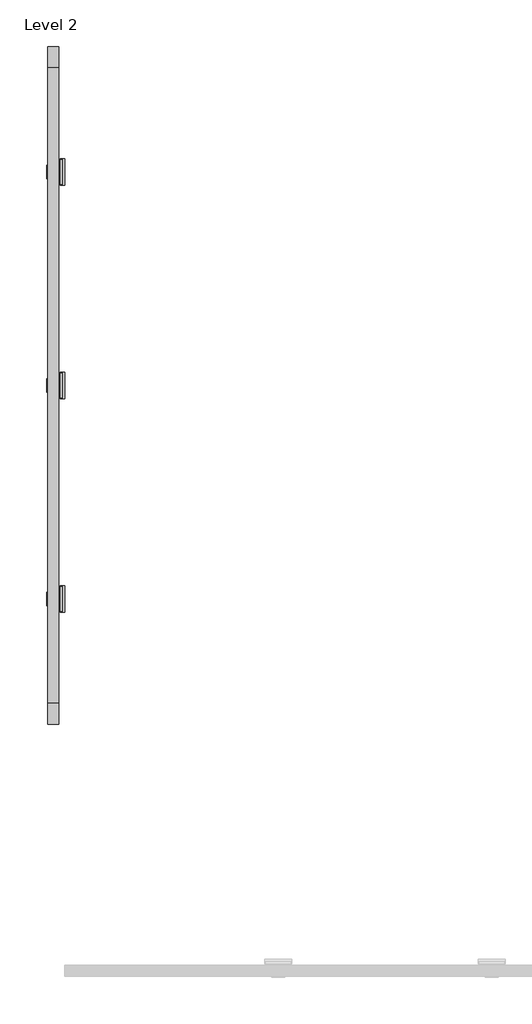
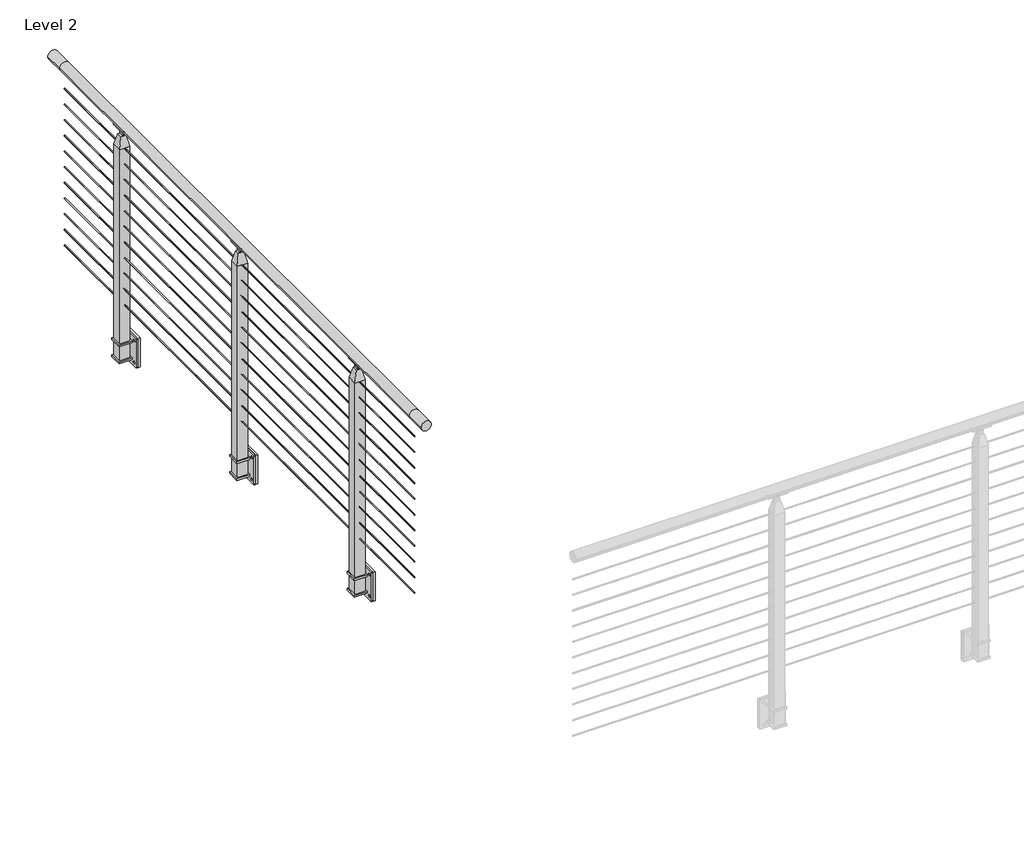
# One storey, part 1 of 17: 1 railing.
"""IFC4 building model written with IfcOpenShell, lengths in millimetres."""

from ifc_helpers import new_model, si_unit, point, frame, frame_2d, origin, place, context, project, spatial, polyline, circle_curve, trimmed, segment, composite_curve, outline, extrude, faceted_brep, element, save
from ifc_brep_helpers import plane_surface, cylinder_surface, revolved_surface, advanced_brep

model = new_model("IFC4")

# Units and contexts
model_context = context("Model", 3, world=origin())
ifc_project = project(units=[si_unit("LENGTHUNIT", "METRE", prefix="MILLI")], contexts=[model_context])

# Site, building, storey
site = spatial("IfcSite", under=ifc_project)
building = spatial("IfcBuilding", under=site)
storey = spatial("IfcBuildingStorey", under=building, Name="Level 2", Elevation=3048.0)

# Railing
placement = place(None, origin())
element("IfcRailing", 1, ObjectType="VIVA-CUBE-Cable-Fascia Mount-Straight", at=placement, inside=storey, context=model_context, shape_type="SolidModel", body=[
    advanced_brep(
    [(-9193.2248794, -51126.8426165, 4102.1), (-9244.0248794, -51126.8426165, 4102.1), (-9193.2248794, -51025.2426165, 4102.1), (-9244.0248794, -51025.2426165, 4102.1), (-9193.2248794, -48002.6426165, 4102.1), (-9244.0248794, -48002.6426165, 4102.1), (-9193.2248794, -47901.0426165, 4102.1), (-9244.0248794, -47901.0426165, 4102.1)],
    [
        (0, 1, circle_curve(frame((-9218.6248794, -51126.8426165, 4102.1), z_axis=(0.0, -1.0, 0.0), x_axis=(-1.0, 0.0, 0.0)), 25.4)),
        (1, 0, circle_curve(frame((-9218.6248794, -51126.8426165, 4102.1), z_axis=(0.0, -1.0, 0.0), x_axis=(-1.0, 0.0, 0.0)), 25.4)),
        (0, 2),
        (2, 3, circle_curve(frame((-9218.6248794, -51025.2426165, 4102.1), z_axis=(0.0, -1.0, 0.0), x_axis=(-1.0, 0.0, 0.0)), 25.4)),
        (3, 1),
        (3, 2, circle_curve(frame((-9218.6248794, -51025.2426165, 4102.1), z_axis=(0.0, -1.0, 0.0), x_axis=(-1.0, 0.0, 0.0)), 25.4)),
        (2, 4),
        (4, 5, circle_curve(frame((-9218.6248794, -48002.6426165, 4102.1), z_axis=(0.0, -1.0, 0.0), x_axis=(-1.0, 0.0, 0.0)), 25.4)),
        (5, 3),
        (5, 4, circle_curve(frame((-9218.6248794, -48002.6426165, 4102.1), z_axis=(0.0, -1.0, 0.0), x_axis=(-1.0, 0.0, 0.0)), 25.4)),
        (6, 7, circle_curve(frame((-9218.6248794, -47901.0426165, 4102.1), z_axis=(0.0, 1.0, 0.0), x_axis=(-1.0, 0.0, 0.0)), 25.4)),
        (7, 6, circle_curve(frame((-9218.6248794, -47901.0426165, 4102.1), z_axis=(0.0, 1.0, 0.0), x_axis=(-1.0, 0.0, 0.0)), 25.4)),
        (4, 6),
        (7, 5),
    ],
    [
        plane_surface(frame((-9218.6248794, -51126.8426165, 4127.5), z_axis=(0.0, -1.0, 0.0), x_axis=(0.0, 0.0, 1.0))),
        cylinder_surface(frame((-9218.6248794, -51126.8426165, 4102.1), z_axis=(0.0, -1.0, 0.0), x_axis=(-1.0, 0.0, 0.0)), 25.4),
        cylinder_surface(frame((-9218.6248794, -51025.2426165, 4102.1), z_axis=(0.0, -1.0, 0.0), x_axis=(-1.0, 0.0, 0.0)), 25.4),
        plane_surface(frame((-9218.6248794, -47901.0426165, 4127.5), z_axis=(0.0, 1.0, 0.0), x_axis=(0.0, 0.0, 1.0))),
        cylinder_surface(frame((-9218.6248794, -48002.6426165, 4102.1), z_axis=(0.0, -1.0, 0.0), x_axis=(-1.0, 0.0, 0.0)), 25.4),
    ],
    [
        (0, [[1, 2]]),
        (1, [[-1, 3, 4, 5]]),
        (1, [[-2, -5, 6, -3]]),
        (2, [[-4, 7, 8, 9]]),
        (2, [[-6, -9, 10, -7]]),
        (3, [[11, 12]]),
        (4, [[-8, 13, -12, 14]]),
        (4, [[-10, -14, -11, -13]]),
    ],
),
    extrude(outline(composite_curve([segment(trimmed(circle_curve(frame_2d((3985.4124, -9218.6248794)), 2.3876), [point((3985.4124, -9216.2372794))], [point((3985.4124, -9221.0124794))], False, "CARTESIAN"), True, "CONTINUOUS"), segment(trimmed(circle_curve(frame_2d((3985.4124, -9218.6248794)), 2.3876), [point((3985.4124, -9221.0124794))], [point((3985.4124, -9216.2372794))], False, "CARTESIAN"), True, "CONTINUOUS")], self_intersect=False)), frame((0.0, -51025.2426165, 0.0), z_axis=(0.0, 1.0, 0.0), x_axis=(0.0, 0.0, 1.0)), (0.0, 0.0, 1.0), 3022.6),
    extrude(outline(composite_curve([segment(trimmed(circle_curve(frame_2d((3902.8624, -9218.6248794)), 2.3876), [point((3902.8624, -9216.2372794))], [point((3902.8624, -9221.0124794))], False, "CARTESIAN"), True, "CONTINUOUS"), segment(trimmed(circle_curve(frame_2d((3902.8624, -9218.6248794)), 2.3876), [point((3902.8624, -9221.0124794))], [point((3902.8624, -9216.2372794))], False, "CARTESIAN"), True, "CONTINUOUS")], self_intersect=False)), frame((0.0, -51025.2426165, 0.0), z_axis=(0.0, 1.0, 0.0), x_axis=(0.0, 0.0, 1.0)), (0.0, 0.0, 1.0), 3022.6),
    extrude(outline(composite_curve([segment(trimmed(circle_curve(frame_2d((3820.3124, -9218.6248794)), 2.3876), [point((3820.3124, -9216.2372794))], [point((3820.3124, -9221.0124794))], False, "CARTESIAN"), True, "CONTINUOUS"), segment(trimmed(circle_curve(frame_2d((3820.3124, -9218.6248794)), 2.3876), [point((3820.3124, -9221.0124794))], [point((3820.3124, -9216.2372794))], False, "CARTESIAN"), True, "CONTINUOUS")], self_intersect=False)), frame((0.0, -51025.2426165, 0.0), z_axis=(0.0, 1.0, 0.0), x_axis=(0.0, 0.0, 1.0)), (0.0, 0.0, 1.0), 3022.6),
    extrude(outline(composite_curve([segment(trimmed(circle_curve(frame_2d((3737.7624, -9218.6248794)), 2.3876), [point((3737.7624, -9216.2372794))], [point((3737.7624, -9221.0124794))], False, "CARTESIAN"), True, "CONTINUOUS"), segment(trimmed(circle_curve(frame_2d((3737.7624, -9218.6248794)), 2.3876), [point((3737.7624, -9221.0124794))], [point((3737.7624, -9216.2372794))], False, "CARTESIAN"), True, "CONTINUOUS")], self_intersect=False)), frame((0.0, -51025.2426165, 0.0), z_axis=(0.0, 1.0, 0.0), x_axis=(0.0, 0.0, 1.0)), (0.0, 0.0, 1.0), 3022.6),
    extrude(outline(composite_curve([segment(trimmed(circle_curve(frame_2d((3655.2124, -9218.6248794)), 2.3876), [point((3655.2124, -9216.2372794))], [point((3655.2124, -9221.0124794))], False, "CARTESIAN"), True, "CONTINUOUS"), segment(trimmed(circle_curve(frame_2d((3655.2124, -9218.6248794)), 2.3876), [point((3655.2124, -9221.0124794))], [point((3655.2124, -9216.2372794))], False, "CARTESIAN"), True, "CONTINUOUS")], self_intersect=False)), frame((0.0, -51025.2426165, 0.0), z_axis=(0.0, 1.0, 0.0), x_axis=(0.0, 0.0, 1.0)), (0.0, 0.0, 1.0), 3022.6),
    extrude(outline(composite_curve([segment(trimmed(circle_curve(frame_2d((3572.6624, -9218.6248794)), 2.3876), [point((3572.6624, -9216.2372794))], [point((3572.6624, -9221.0124794))], False, "CARTESIAN"), True, "CONTINUOUS"), segment(trimmed(circle_curve(frame_2d((3572.6624, -9218.6248794)), 2.3876), [point((3572.6624, -9221.0124794))], [point((3572.6624, -9216.2372794))], False, "CARTESIAN"), True, "CONTINUOUS")], self_intersect=False)), frame((0.0, -51025.2426165, 0.0), z_axis=(0.0, 1.0, 0.0), x_axis=(0.0, 0.0, 1.0)), (0.0, 0.0, 1.0), 3022.6),
    extrude(outline(composite_curve([segment(trimmed(circle_curve(frame_2d((3490.1124, -9218.6248794)), 2.3876), [point((3490.1124, -9216.2372794))], [point((3490.1124, -9221.0124794))], False, "CARTESIAN"), True, "CONTINUOUS"), segment(trimmed(circle_curve(frame_2d((3490.1124, -9218.6248794)), 2.3876), [point((3490.1124, -9221.0124794))], [point((3490.1124, -9216.2372794))], False, "CARTESIAN"), True, "CONTINUOUS")], self_intersect=False)), frame((0.0, -51025.2426165, 0.0), z_axis=(0.0, 1.0, 0.0), x_axis=(0.0, 0.0, 1.0)), (0.0, 0.0, 1.0), 3022.6),
    extrude(outline(composite_curve([segment(trimmed(circle_curve(frame_2d((3407.5624, -9218.6248794)), 2.3876), [point((3407.5624, -9216.2372794))], [point((3407.5624, -9221.0124794))], False, "CARTESIAN"), True, "CONTINUOUS"), segment(trimmed(circle_curve(frame_2d((3407.5624, -9218.6248794)), 2.3876), [point((3407.5624, -9221.0124794))], [point((3407.5624, -9216.2372794))], False, "CARTESIAN"), True, "CONTINUOUS")], self_intersect=False)), frame((0.0, -51025.2426165, 0.0), z_axis=(0.0, 1.0, 0.0), x_axis=(0.0, 0.0, 1.0)), (0.0, 0.0, 1.0), 3022.6),
    extrude(outline(composite_curve([segment(trimmed(circle_curve(frame_2d((3325.0124, -9218.6248794)), 2.3876), [point((3325.0124, -9216.2372794))], [point((3325.0124, -9221.0124794))], False, "CARTESIAN"), True, "CONTINUOUS"), segment(trimmed(circle_curve(frame_2d((3325.0124, -9218.6248794)), 2.3876), [point((3325.0124, -9221.0124794))], [point((3325.0124, -9216.2372794))], False, "CARTESIAN"), True, "CONTINUOUS")], self_intersect=False)), frame((0.0, -51025.2426165, 0.0), z_axis=(0.0, 1.0, 0.0), x_axis=(0.0, 0.0, 1.0)), (0.0, 0.0, 1.0), 3022.6),
    extrude(outline(composite_curve([segment(trimmed(circle_curve(frame_2d((3242.4624, -9218.6248794)), 2.3876), [point((3242.4624, -9216.2372794))], [point((3242.4624, -9221.0124794))], False, "CARTESIAN"), True, "CONTINUOUS"), segment(trimmed(circle_curve(frame_2d((3242.4624, -9218.6248794)), 2.3876), [point((3242.4624, -9221.0124794))], [point((3242.4624, -9216.2372794))], False, "CARTESIAN"), True, "CONTINUOUS")], self_intersect=False)), frame((0.0, -51025.2426165, 0.0), z_axis=(0.0, 1.0, 0.0), x_axis=(0.0, 0.0, 1.0)), (0.0, 0.0, 1.0), 3022.6),
    extrude(outline(composite_curve([segment(trimmed(circle_curve(frame_2d((3159.9124, -9218.6248794)), 2.3876), [point((3159.9124, -9216.2372794))], [point((3159.9124, -9221.0124794))], False, "CARTESIAN"), True, "CONTINUOUS"), segment(trimmed(circle_curve(frame_2d((3159.9124, -9218.6248794)), 2.3876), [point((3159.9124, -9221.0124794))], [point((3159.9124, -9216.2372794))], False, "CARTESIAN"), True, "CONTINUOUS")], self_intersect=False)), frame((0.0, -51025.2426165, 0.0), z_axis=(0.0, 1.0, 0.0), x_axis=(0.0, 0.0, 1.0)), (0.0, 0.0, 1.0), 3022.6),
    extrude(outline(polyline([(-9164.1118437, -48434.0457415), (-9164.1118437, -48561.0457415), (-9174.0940437, -48561.0457415), (-9174.0940437, -48434.0457415), (-9164.1118437, -48434.0457415)])), frame((0.0, 0.0, 2838.45), z_axis=(0.0, 0.0, 1.0), x_axis=(1.0, 0.0, 0.0)), (0.0, 0.0, 1.0), 152.4),
    extrude(outline(composite_curve([segment(trimmed(circle_curve(frame_2d((-48436.5857415, 2988.31)), 2.54), [point((-48436.5857415, 2990.85))], [point((-48434.0457415, 2988.31))], False, "CARTESIAN"), True, "CONTINUOUS"), segment(polyline([(-48434.0457415, 2988.31), (-48434.0457415, 2840.99)]), True, "CONTINUOUS"), segment(trimmed(circle_curve(frame_2d((-48436.5857415, 2840.99)), 2.54), [point((-48434.0457415, 2840.99))], [point((-48436.5857415, 2838.45))], False, "CARTESIAN"), True, "CONTINUOUS"), segment(polyline([(-48436.5857415, 2838.45), (-48558.5057415, 2838.45)]), True, "CONTINUOUS"), segment(trimmed(circle_curve(frame_2d((-48558.5057415, 2840.99)), 2.54), [point((-48558.5057415, 2838.45))], [point((-48561.0457415, 2840.99))], False, "CARTESIAN"), True, "CONTINUOUS"), segment(polyline([(-48561.0457415, 2840.99), (-48561.0457415, 2988.31)]), True, "CONTINUOUS"), segment(trimmed(circle_curve(frame_2d((-48558.5057415, 2988.31)), 2.54), [point((-48561.0457415, 2988.31))], [point((-48558.5057415, 2990.85))], False, "CARTESIAN"), True, "CONTINUOUS"), segment(polyline([(-48558.5057415, 2990.85), (-48436.5857415, 2990.85)]), True, "CONTINUOUS")], self_intersect=False), holes=[composite_curve([segment(trimmed(circle_curve(frame_2d((-48541.9957415, 2971.8)), 5.55625), [point((-48536.4394915, 2971.8))], [point((-48547.5519915, 2971.8))], True, "CARTESIAN"), True, "CONTINUOUS"), segment(trimmed(circle_curve(frame_2d((-48541.9957415, 2971.8)), 5.55625), [point((-48547.5519915, 2971.8))], [point((-48536.4394915, 2971.8))], True, "CARTESIAN"), True, "CONTINUOUS")], self_intersect=False), composite_curve([segment(trimmed(circle_curve(frame_2d((-48453.0957415, 2971.8)), 5.55625), [point((-48447.5394915, 2971.8))], [point((-48458.6519915, 2971.8))], True, "CARTESIAN"), True, "CONTINUOUS"), segment(trimmed(circle_curve(frame_2d((-48453.0957415, 2971.8)), 5.55625), [point((-48458.6519915, 2971.8))], [point((-48447.5394915, 2971.8))], True, "CARTESIAN"), True, "CONTINUOUS")], self_intersect=False), composite_curve([segment(trimmed(circle_curve(frame_2d((-48453.0957415, 2857.5)), 5.55625), [point((-48447.5394915, 2857.5))], [point((-48458.6519915, 2857.5))], True, "CARTESIAN"), True, "CONTINUOUS"), segment(trimmed(circle_curve(frame_2d((-48453.0957415, 2857.5)), 5.55625), [point((-48458.6519915, 2857.5))], [point((-48447.5394915, 2857.5))], True, "CARTESIAN"), True, "CONTINUOUS")], self_intersect=False), composite_curve([segment(trimmed(circle_curve(frame_2d((-48541.9957415, 2857.5)), 5.55625), [point((-48536.4394915, 2857.5))], [point((-48547.5519915, 2857.5))], True, "CARTESIAN"), True, "CONTINUOUS"), segment(trimmed(circle_curve(frame_2d((-48541.9957415, 2857.5)), 5.55625), [point((-48547.5519915, 2857.5))], [point((-48536.4394915, 2857.5))], True, "CARTESIAN"), True, "CONTINUOUS")], self_intersect=False)]), frame((-9184.0762437, 0.0, 0.0), z_axis=(1.0, 0.0, 0.0), x_axis=(0.0, 1.0, 0.0)), (0.0, 0.0, 1.0), 9.9822),
    extrude(outline(polyline([(-9174.0940437, -48529.2957415), (-9250.3748794, -48529.2957415), (-9250.3748794, -48465.7957415), (-9174.0940437, -48465.7957415), (-9174.0940437, -48529.2957415)])), frame((0.0, 0.0, 2865.4375), z_axis=(0.0, 0.0, 1.0), x_axis=(1.0, 0.0, 0.0)), (0.0, 0.0, 1.0), 9.5123),
    extrude(outline(polyline([(-9174.0940437, -48529.2957415), (-9250.3748794, -48529.2957415), (-9250.3748794, -48465.7957415), (-9174.0940437, -48465.7957415), (-9174.0940437, -48529.2957415)])), frame((0.0, 0.0, 2954.3375), z_axis=(0.0, 0.0, 1.0), x_axis=(1.0, 0.0, 0.0)), (0.0, 0.0, 1.0), 9.525),
    faceted_brep([(-9205.9248794, -48484.8457415, 4045.2902749), (-9214.6561294, -48484.8457415, 4045.2902749), (-9214.6561294, -48510.2457415, 4045.2902749), (-9205.9248794, -48510.2457415, 4045.2902749), (-9231.3248794, -48510.2457415, 4045.2902749), (-9222.5936294, -48510.2457415, 4045.2902749), (-9222.5936294, -48484.8457415, 4045.2902749), (-9231.3248794, -48484.8457415, 4045.2902749), (-9193.2248794, -48472.1457415, 3989.1347854), (-9244.0248794, -48472.1457415, 3989.1347854), (-9193.2248794, -48522.9457415, 3989.1347854), (-9244.0248794, -48522.9457415, 3989.1347854), (-9193.2248794, -48472.1457415, 2874.9498), (-9193.2248794, -48522.9457415, 2874.9498), (-9244.0248794, -48522.9457415, 2874.9498), (-9244.0248794, -48472.1457415, 2874.9498), (-9222.5936294, -48510.2457415, 4057.3306013), (-9214.6561294, -48510.2457415, 4057.3306013), (-9214.6561294, -48484.8457415, 4057.3306013), (-9222.5936294, -48484.8457415, 4057.3306013)], [[[0, 1, 2, 3]], [[4, 5, 6, 7]], [[8, 9, 7, 6, 1, 0]], [[3, 10, 8, 0]], [[3, 2, 5, 4, 11, 10]], [[7, 9, 11, 4]], [[12, 13, 14, 15]], [[12, 8, 10, 13]], [[13, 10, 11, 14]], [[14, 11, 9, 15]], [[15, 9, 8, 12]], [[16, 17, 18, 19]], [[19, 6, 5, 16]], [[18, 1, 6, 19]], [[17, 2, 1, 18]], [[16, 5, 2, 17]]]),
    extrude(outline(composite_curve([segment(trimmed(circle_curve(frame_2d((4077.5101807, -9232.6395116)), 2.9558141), [point((4080.0284941, -9231.0919539))], [point((4075.6392616, -9234.9278513))], False, "CARTESIAN"), True, "CONTINUOUS"), segment(trimmed(circle_curve(frame_2d((4102.905945, -9218.6616141)), 31.75), [point((4075.6392616, -9234.9278513))], [point((4075.0585031, -9203.4109591))], False, "CARTESIAN"), True, "CONTINUOUS"), segment(trimmed(circle_curve(frame_2d((4077.4310885, -9204.8882641)), 2.7949225), [point((4075.0585031, -9203.4109591))], [point((4079.9335733, -9206.1329172))], False, "CARTESIAN"), True, "CONTINUOUS"), segment(trimmed(circle_curve(frame_2d((4102.1433184, -9218.528151)), 25.4345159), [point((4079.9335733, -9206.1329172))], [point((4080.0284941, -9231.0919539))], True, "CARTESIAN"), True, "CONTINUOUS")], self_intersect=False)), frame((0.0, -48542.7831415, 0.0), z_axis=(0.0, 1.0, 0.0), x_axis=(0.0, 0.0, 1.0)), (0.0, 0.0, 1.0), 90.4748),
    advanced_brep(
    [(-9216.0848794, -48470.4778267, 4071.3685171), (-9216.0848794, -48524.6136564, 4071.3685171), (-9216.0848794, -48510.2457415, 4057.0006022), (-9216.0848794, -48484.8457415, 4057.0006022), (-9221.1648794, -48470.4778267, 4071.3685171), (-9221.1648794, -48484.8457415, 4057.0006022), (-9221.1648794, -48510.2457415, 4057.0006022), (-9221.1648794, -48524.6136564, 4071.3685171)],
    [
        (0, 1),
        (1, 2, circle_curve(frame((-9216.0848794, -48524.6136564, 4057.0006022), z_axis=(-1.0, 0.0, 0.0), x_axis=(0.0, -1.0, 0.0)), 14.3679149)),
        (2, 3, circle_curve(frame((-9216.0848794, -48497.5457415, 4057.0006022), z_axis=(1.0, 0.0, 0.0), x_axis=(0.0, -1.0, 0.0)), 12.7)),
        (3, 0, circle_curve(frame((-9216.0848794, -48470.4778267, 4057.0006022), z_axis=(-1.0, 0.0, 0.0), x_axis=(0.0, -1.0, 0.0)), 14.3679149)),
        (4, 5, circle_curve(frame((-9221.1648794, -48470.4778267, 4057.0006022), z_axis=(1.0, 0.0, 0.0), x_axis=(0.0, -1.0, 0.0)), 14.3679149)),
        (5, 6, circle_curve(frame((-9221.1648794, -48497.5457415, 4057.0006022), z_axis=(-1.0, 0.0, 0.0), x_axis=(0.0, -1.0, 0.0)), 12.7)),
        (6, 7, circle_curve(frame((-9221.1648794, -48524.6136564, 4057.0006022), z_axis=(1.0, 0.0, 0.0), x_axis=(0.0, -1.0, 0.0)), 14.3679149)),
        (7, 4),
        (3, 5),
        (4, 0),
        (2, 6),
        (1, 7),
    ],
    [
        plane_surface(frame((-9216.0848794, -48484.8457415, 4057.0006022), z_axis=(1.0, 0.0, 0.0), x_axis=(0.0, 0.0, -1.0))),
        plane_surface(frame((-9221.1648794, -48484.8457415, 4057.0006022), z_axis=(-1.0, 0.0, 0.0), x_axis=(0.0, 0.0, 1.0))),
        revolved_surface(polyline([(-9221.1648794, -48484.8457416, 4057.0006022), (-9216.0848794, -48484.8457416, 4057.0006022)]), (-9221.1648794, -48470.4778267, 4057.0006022), (-1.0, 0.0, 0.0)),
        cylinder_surface(frame((-9221.1648794, -48497.5457415, 4057.0006022), z_axis=(1.0, 0.0, 0.0), x_axis=(0.0, -1.0, 0.0)), 12.7),
        revolved_surface(polyline([(-9221.1648794, -48538.9815713, 4057.0006022), (-9216.0848794, -48538.9815713, 4057.0006022)]), (-9221.1648794, -48524.6136564, 4057.0006022), (-1.0, 0.0, 0.0)),
        plane_surface(frame((-9216.0848794, -48524.6136564, 4071.3685171), z_axis=(0.0, 0.0, 1.0), x_axis=(-1.0, 0.0, 0.0))),
    ],
    [
        (0, [[1, 2, 3, 4]]),
        (1, [[5, 6, 7, 8]]),
        (2, [[9, -5, 10, -4]]),
        (3, [[11, -6, -9, -3]]),
        (4, [[12, -7, -11, -2]]),
        (5, [[-10, -8, -12, -1]]),
    ],
),
    extrude(outline(polyline([(-9164.1118437, -49450.0457415), (-9164.1118437, -49577.0457415), (-9174.0940437, -49577.0457415), (-9174.0940437, -49450.0457415), (-9164.1118437, -49450.0457415)])), frame((0.0, 0.0, 2838.45), z_axis=(0.0, 0.0, 1.0), x_axis=(1.0, 0.0, 0.0)), (0.0, 0.0, 1.0), 152.4),
    extrude(outline(composite_curve([segment(trimmed(circle_curve(frame_2d((-49452.5857415, 2988.31)), 2.54), [point((-49452.5857415, 2990.85))], [point((-49450.0457415, 2988.31))], False, "CARTESIAN"), True, "CONTINUOUS"), segment(polyline([(-49450.0457415, 2988.31), (-49450.0457415, 2840.99)]), True, "CONTINUOUS"), segment(trimmed(circle_curve(frame_2d((-49452.5857415, 2840.99)), 2.54), [point((-49450.0457415, 2840.99))], [point((-49452.5857415, 2838.45))], False, "CARTESIAN"), True, "CONTINUOUS"), segment(polyline([(-49452.5857415, 2838.45), (-49574.5057415, 2838.45)]), True, "CONTINUOUS"), segment(trimmed(circle_curve(frame_2d((-49574.5057415, 2840.99)), 2.54), [point((-49574.5057415, 2838.45))], [point((-49577.0457415, 2840.99))], False, "CARTESIAN"), True, "CONTINUOUS"), segment(polyline([(-49577.0457415, 2840.99), (-49577.0457415, 2988.31)]), True, "CONTINUOUS"), segment(trimmed(circle_curve(frame_2d((-49574.5057415, 2988.31)), 2.54), [point((-49577.0457415, 2988.31))], [point((-49574.5057415, 2990.85))], False, "CARTESIAN"), True, "CONTINUOUS"), segment(polyline([(-49574.5057415, 2990.85), (-49452.5857415, 2990.85)]), True, "CONTINUOUS")], self_intersect=False), holes=[composite_curve([segment(trimmed(circle_curve(frame_2d((-49557.9957415, 2971.8)), 5.55625), [point((-49552.4394915, 2971.8))], [point((-49563.5519915, 2971.8))], True, "CARTESIAN"), True, "CONTINUOUS"), segment(trimmed(circle_curve(frame_2d((-49557.9957415, 2971.8)), 5.55625), [point((-49563.5519915, 2971.8))], [point((-49552.4394915, 2971.8))], True, "CARTESIAN"), True, "CONTINUOUS")], self_intersect=False), composite_curve([segment(trimmed(circle_curve(frame_2d((-49469.0957415, 2971.8)), 5.55625), [point((-49463.5394915, 2971.8))], [point((-49474.6519915, 2971.8))], True, "CARTESIAN"), True, "CONTINUOUS"), segment(trimmed(circle_curve(frame_2d((-49469.0957415, 2971.8)), 5.55625), [point((-49474.6519915, 2971.8))], [point((-49463.5394915, 2971.8))], True, "CARTESIAN"), True, "CONTINUOUS")], self_intersect=False), composite_curve([segment(trimmed(circle_curve(frame_2d((-49469.0957415, 2857.5)), 5.55625), [point((-49463.5394915, 2857.5))], [point((-49474.6519915, 2857.5))], True, "CARTESIAN"), True, "CONTINUOUS"), segment(trimmed(circle_curve(frame_2d((-49469.0957415, 2857.5)), 5.55625), [point((-49474.6519915, 2857.5))], [point((-49463.5394915, 2857.5))], True, "CARTESIAN"), True, "CONTINUOUS")], self_intersect=False), composite_curve([segment(trimmed(circle_curve(frame_2d((-49557.9957415, 2857.5)), 5.55625), [point((-49552.4394915, 2857.5))], [point((-49563.5519915, 2857.5))], True, "CARTESIAN"), True, "CONTINUOUS"), segment(trimmed(circle_curve(frame_2d((-49557.9957415, 2857.5)), 5.55625), [point((-49563.5519915, 2857.5))], [point((-49552.4394915, 2857.5))], True, "CARTESIAN"), True, "CONTINUOUS")], self_intersect=False)]), frame((-9184.0762437, 0.0, 0.0), z_axis=(1.0, 0.0, 0.0), x_axis=(0.0, 1.0, 0.0)), (0.0, 0.0, 1.0), 9.9822),
    extrude(outline(polyline([(-9174.0940437, -49545.2957415), (-9250.3748794, -49545.2957415), (-9250.3748794, -49481.7957415), (-9174.0940437, -49481.7957415), (-9174.0940437, -49545.2957415)])), frame((0.0, 0.0, 2865.4375), z_axis=(0.0, 0.0, 1.0), x_axis=(1.0, 0.0, 0.0)), (0.0, 0.0, 1.0), 9.5123),
    extrude(outline(polyline([(-9174.0940437, -49545.2957415), (-9250.3748794, -49545.2957415), (-9250.3748794, -49481.7957415), (-9174.0940437, -49481.7957415), (-9174.0940437, -49545.2957415)])), frame((0.0, 0.0, 2954.3375), z_axis=(0.0, 0.0, 1.0), x_axis=(1.0, 0.0, 0.0)), (0.0, 0.0, 1.0), 9.525),
    faceted_brep([(-9205.9248794, -49500.8457415, 4045.2902749), (-9214.6561294, -49500.8457415, 4045.2902749), (-9214.6561294, -49526.2457415, 4045.2902749), (-9205.9248794, -49526.2457415, 4045.2902749), (-9231.3248794, -49526.2457415, 4045.2902749), (-9222.5936294, -49526.2457415, 4045.2902749), (-9222.5936294, -49500.8457415, 4045.2902749), (-9231.3248794, -49500.8457415, 4045.2902749), (-9193.2248794, -49488.1457415, 3989.1347854), (-9244.0248794, -49488.1457415, 3989.1347854), (-9193.2248794, -49538.9457415, 3989.1347854), (-9244.0248794, -49538.9457415, 3989.1347854), (-9193.2248794, -49488.1457415, 2874.9498), (-9193.2248794, -49538.9457415, 2874.9498), (-9244.0248794, -49538.9457415, 2874.9498), (-9244.0248794, -49488.1457415, 2874.9498), (-9222.5936294, -49526.2457415, 4057.3306013), (-9214.6561294, -49526.2457415, 4057.3306013), (-9214.6561294, -49500.8457415, 4057.3306013), (-9222.5936294, -49500.8457415, 4057.3306013)], [[[0, 1, 2, 3]], [[4, 5, 6, 7]], [[8, 9, 7, 6, 1, 0]], [[3, 10, 8, 0]], [[3, 2, 5, 4, 11, 10]], [[7, 9, 11, 4]], [[12, 13, 14, 15]], [[12, 8, 10, 13]], [[13, 10, 11, 14]], [[14, 11, 9, 15]], [[15, 9, 8, 12]], [[16, 17, 18, 19]], [[19, 6, 5, 16]], [[18, 1, 6, 19]], [[17, 2, 1, 18]], [[16, 5, 2, 17]]]),
    extrude(outline(composite_curve([segment(trimmed(circle_curve(frame_2d((4077.5101807, -9232.6395116)), 2.9558141), [point((4080.0284941, -9231.0919539))], [point((4075.6392616, -9234.9278513))], False, "CARTESIAN"), True, "CONTINUOUS"), segment(trimmed(circle_curve(frame_2d((4102.905945, -9218.6616141)), 31.75), [point((4075.6392616, -9234.9278513))], [point((4075.0585031, -9203.4109591))], False, "CARTESIAN"), True, "CONTINUOUS"), segment(trimmed(circle_curve(frame_2d((4077.4310885, -9204.8882641)), 2.7949225), [point((4075.0585031, -9203.4109591))], [point((4079.9335733, -9206.1329172))], False, "CARTESIAN"), True, "CONTINUOUS"), segment(trimmed(circle_curve(frame_2d((4102.1433184, -9218.528151)), 25.4345159), [point((4079.9335733, -9206.1329172))], [point((4080.0284941, -9231.0919539))], True, "CARTESIAN"), True, "CONTINUOUS")], self_intersect=False)), frame((0.0, -49558.7831415, 0.0), z_axis=(0.0, 1.0, 0.0), x_axis=(0.0, 0.0, 1.0)), (0.0, 0.0, 1.0), 90.4748),
    advanced_brep(
    [(-9216.0848794, -49486.4778267, 4071.3685171), (-9216.0848794, -49540.6136564, 4071.3685171), (-9216.0848794, -49526.2457415, 4057.0006022), (-9216.0848794, -49500.8457415, 4057.0006022), (-9221.1648794, -49486.4778267, 4071.3685171), (-9221.1648794, -49500.8457415, 4057.0006022), (-9221.1648794, -49526.2457415, 4057.0006022), (-9221.1648794, -49540.6136564, 4071.3685171)],
    [
        (0, 1),
        (1, 2, circle_curve(frame((-9216.0848794, -49540.6136564, 4057.0006022), z_axis=(-1.0, 0.0, 0.0), x_axis=(0.0, -1.0, 0.0)), 14.3679149)),
        (2, 3, circle_curve(frame((-9216.0848794, -49513.5457415, 4057.0006022), z_axis=(1.0, 0.0, 0.0), x_axis=(0.0, -1.0, 0.0)), 12.7)),
        (3, 0, circle_curve(frame((-9216.0848794, -49486.4778267, 4057.0006022), z_axis=(-1.0, 0.0, 0.0), x_axis=(0.0, -1.0, 0.0)), 14.3679149)),
        (4, 5, circle_curve(frame((-9221.1648794, -49486.4778267, 4057.0006022), z_axis=(1.0, 0.0, 0.0), x_axis=(0.0, -1.0, 0.0)), 14.3679149)),
        (5, 6, circle_curve(frame((-9221.1648794, -49513.5457415, 4057.0006022), z_axis=(-1.0, 0.0, 0.0), x_axis=(0.0, -1.0, 0.0)), 12.7)),
        (6, 7, circle_curve(frame((-9221.1648794, -49540.6136564, 4057.0006022), z_axis=(1.0, 0.0, 0.0), x_axis=(0.0, -1.0, 0.0)), 14.3679149)),
        (7, 4),
        (3, 5),
        (4, 0),
        (2, 6),
        (1, 7),
    ],
    [
        plane_surface(frame((-9216.0848794, -49500.8457415, 4057.0006022), z_axis=(1.0, 0.0, 0.0), x_axis=(0.0, 0.0, -1.0))),
        plane_surface(frame((-9221.1648794, -49500.8457415, 4057.0006022), z_axis=(-1.0, 0.0, 0.0), x_axis=(0.0, 0.0, 1.0))),
        revolved_surface(polyline([(-9221.1648794, -49500.8457416, 4057.0006022), (-9216.0848794, -49500.8457416, 4057.0006022)]), (-9221.1648794, -49486.4778267, 4057.0006022), (-1.0, 0.0, 0.0)),
        cylinder_surface(frame((-9221.1648794, -49513.5457415, 4057.0006022), z_axis=(1.0, 0.0, 0.0), x_axis=(0.0, -1.0, 0.0)), 12.7),
        revolved_surface(polyline([(-9221.1648794, -49554.9815713, 4057.0006022), (-9216.0848794, -49554.9815713, 4057.0006022)]), (-9221.1648794, -49540.6136564, 4057.0006022), (-1.0, 0.0, 0.0)),
        plane_surface(frame((-9216.0848794, -49540.6136564, 4071.3685171), z_axis=(0.0, 0.0, 1.0), x_axis=(-1.0, 0.0, 0.0))),
    ],
    [
        (0, [[1, 2, 3, 4]]),
        (1, [[5, 6, 7, 8]]),
        (2, [[9, -5, 10, -4]]),
        (3, [[11, -6, -9, -3]]),
        (4, [[12, -7, -11, -2]]),
        (5, [[-10, -8, -12, -1]]),
    ],
),
    extrude(outline(polyline([(-9164.1118437, -50466.0457415), (-9164.1118437, -50593.0457415), (-9174.0940437, -50593.0457415), (-9174.0940437, -50466.0457415), (-9164.1118437, -50466.0457415)])), frame((0.0, 0.0, 2838.45), z_axis=(0.0, 0.0, 1.0), x_axis=(1.0, 0.0, 0.0)), (0.0, 0.0, 1.0), 152.4),
    extrude(outline(composite_curve([segment(trimmed(circle_curve(frame_2d((-50468.5857415, 2988.31)), 2.54), [point((-50468.5857415, 2990.85))], [point((-50466.0457415, 2988.31))], False, "CARTESIAN"), True, "CONTINUOUS"), segment(polyline([(-50466.0457415, 2988.31), (-50466.0457415, 2840.99)]), True, "CONTINUOUS"), segment(trimmed(circle_curve(frame_2d((-50468.5857415, 2840.99)), 2.54), [point((-50466.0457415, 2840.99))], [point((-50468.5857415, 2838.45))], False, "CARTESIAN"), True, "CONTINUOUS"), segment(polyline([(-50468.5857415, 2838.45), (-50590.5057415, 2838.45)]), True, "CONTINUOUS"), segment(trimmed(circle_curve(frame_2d((-50590.5057415, 2840.99)), 2.54), [point((-50590.5057415, 2838.45))], [point((-50593.0457415, 2840.99))], False, "CARTESIAN"), True, "CONTINUOUS"), segment(polyline([(-50593.0457415, 2840.99), (-50593.0457415, 2988.31)]), True, "CONTINUOUS"), segment(trimmed(circle_curve(frame_2d((-50590.5057415, 2988.31)), 2.54), [point((-50593.0457415, 2988.31))], [point((-50590.5057415, 2990.85))], False, "CARTESIAN"), True, "CONTINUOUS"), segment(polyline([(-50590.5057415, 2990.85), (-50468.5857415, 2990.85)]), True, "CONTINUOUS")], self_intersect=False), holes=[composite_curve([segment(trimmed(circle_curve(frame_2d((-50573.9957415, 2971.8)), 5.55625), [point((-50568.4394915, 2971.8))], [point((-50579.5519915, 2971.8))], True, "CARTESIAN"), True, "CONTINUOUS"), segment(trimmed(circle_curve(frame_2d((-50573.9957415, 2971.8)), 5.55625), [point((-50579.5519915, 2971.8))], [point((-50568.4394915, 2971.8))], True, "CARTESIAN"), True, "CONTINUOUS")], self_intersect=False), composite_curve([segment(trimmed(circle_curve(frame_2d((-50485.0957415, 2971.8)), 5.55625), [point((-50479.5394915, 2971.8))], [point((-50490.6519915, 2971.8))], True, "CARTESIAN"), True, "CONTINUOUS"), segment(trimmed(circle_curve(frame_2d((-50485.0957415, 2971.8)), 5.55625), [point((-50490.6519915, 2971.8))], [point((-50479.5394915, 2971.8))], True, "CARTESIAN"), True, "CONTINUOUS")], self_intersect=False), composite_curve([segment(trimmed(circle_curve(frame_2d((-50485.0957415, 2857.5)), 5.55625), [point((-50479.5394915, 2857.5))], [point((-50490.6519915, 2857.5))], True, "CARTESIAN"), True, "CONTINUOUS"), segment(trimmed(circle_curve(frame_2d((-50485.0957415, 2857.5)), 5.55625), [point((-50490.6519915, 2857.5))], [point((-50479.5394915, 2857.5))], True, "CARTESIAN"), True, "CONTINUOUS")], self_intersect=False), composite_curve([segment(trimmed(circle_curve(frame_2d((-50573.9957415, 2857.5)), 5.55625), [point((-50568.4394915, 2857.5))], [point((-50579.5519915, 2857.5))], True, "CARTESIAN"), True, "CONTINUOUS"), segment(trimmed(circle_curve(frame_2d((-50573.9957415, 2857.5)), 5.55625), [point((-50579.5519915, 2857.5))], [point((-50568.4394915, 2857.5))], True, "CARTESIAN"), True, "CONTINUOUS")], self_intersect=False)]), frame((-9184.0762437, 0.0, 0.0), z_axis=(1.0, 0.0, 0.0), x_axis=(0.0, 1.0, 0.0)), (0.0, 0.0, 1.0), 9.9822),
    extrude(outline(polyline([(-9174.0940437, -50561.2957415), (-9250.3748794, -50561.2957415), (-9250.3748794, -50497.7957415), (-9174.0940437, -50497.7957415), (-9174.0940437, -50561.2957415)])), frame((0.0, 0.0, 2865.4375), z_axis=(0.0, 0.0, 1.0), x_axis=(1.0, 0.0, 0.0)), (0.0, 0.0, 1.0), 9.5123),
    extrude(outline(polyline([(-9174.0940437, -50561.2957415), (-9250.3748794, -50561.2957415), (-9250.3748794, -50497.7957415), (-9174.0940437, -50497.7957415), (-9174.0940437, -50561.2957415)])), frame((0.0, 0.0, 2954.3375), z_axis=(0.0, 0.0, 1.0), x_axis=(1.0, 0.0, 0.0)), (0.0, 0.0, 1.0), 9.525),
    faceted_brep([(-9205.9248794, -50516.8457415, 4045.2902749), (-9214.6561294, -50516.8457415, 4045.2902749), (-9214.6561294, -50542.2457415, 4045.2902749), (-9205.9248794, -50542.2457415, 4045.2902749), (-9231.3248794, -50542.2457415, 4045.2902749), (-9222.5936294, -50542.2457415, 4045.2902749), (-9222.5936294, -50516.8457415, 4045.2902749), (-9231.3248794, -50516.8457415, 4045.2902749), (-9193.2248794, -50504.1457415, 3989.1347854), (-9244.0248794, -50504.1457415, 3989.1347854), (-9193.2248794, -50554.9457415, 3989.1347854), (-9244.0248794, -50554.9457415, 3989.1347854), (-9193.2248794, -50504.1457415, 2874.9498), (-9193.2248794, -50554.9457415, 2874.9498), (-9244.0248794, -50554.9457415, 2874.9498), (-9244.0248794, -50504.1457415, 2874.9498), (-9222.5936294, -50542.2457415, 4057.3306013), (-9214.6561294, -50542.2457415, 4057.3306013), (-9214.6561294, -50516.8457415, 4057.3306013), (-9222.5936294, -50516.8457415, 4057.3306013)], [[[0, 1, 2, 3]], [[4, 5, 6, 7]], [[8, 9, 7, 6, 1, 0]], [[3, 10, 8, 0]], [[3, 2, 5, 4, 11, 10]], [[7, 9, 11, 4]], [[12, 13, 14, 15]], [[12, 8, 10, 13]], [[13, 10, 11, 14]], [[14, 11, 9, 15]], [[15, 9, 8, 12]], [[16, 17, 18, 19]], [[19, 6, 5, 16]], [[18, 1, 6, 19]], [[17, 2, 1, 18]], [[16, 5, 2, 17]]]),
    extrude(outline(composite_curve([segment(trimmed(circle_curve(frame_2d((4077.5101807, -9232.6395116)), 2.9558141), [point((4080.0284941, -9231.0919539))], [point((4075.6392616, -9234.9278513))], False, "CARTESIAN"), True, "CONTINUOUS"), segment(trimmed(circle_curve(frame_2d((4102.905945, -9218.6616141)), 31.75), [point((4075.6392616, -9234.9278513))], [point((4075.0585031, -9203.4109591))], False, "CARTESIAN"), True, "CONTINUOUS"), segment(trimmed(circle_curve(frame_2d((4077.4310885, -9204.8882641)), 2.7949225), [point((4075.0585031, -9203.4109591))], [point((4079.9335733, -9206.1329172))], False, "CARTESIAN"), True, "CONTINUOUS"), segment(trimmed(circle_curve(frame_2d((4102.1433184, -9218.528151)), 25.4345159), [point((4079.9335733, -9206.1329172))], [point((4080.0284941, -9231.0919539))], True, "CARTESIAN"), True, "CONTINUOUS")], self_intersect=False)), frame((0.0, -50574.7831415, 0.0), z_axis=(0.0, 1.0, 0.0), x_axis=(0.0, 0.0, 1.0)), (0.0, 0.0, 1.0), 90.4748),
    advanced_brep(
    [(-9216.0848794, -50502.4778267, 4071.3685171), (-9216.0848794, -50556.6136564, 4071.3685171), (-9216.0848794, -50542.2457415, 4057.0006022), (-9216.0848794, -50516.8457415, 4057.0006022), (-9221.1648794, -50502.4778267, 4071.3685171), (-9221.1648794, -50516.8457415, 4057.0006022), (-9221.1648794, -50542.2457415, 4057.0006022), (-9221.1648794, -50556.6136564, 4071.3685171)],
    [
        (0, 1),
        (1, 2, circle_curve(frame((-9216.0848794, -50556.6136564, 4057.0006022), z_axis=(-1.0, 0.0, 0.0), x_axis=(0.0, -1.0, 0.0)), 14.3679149)),
        (2, 3, circle_curve(frame((-9216.0848794, -50529.5457415, 4057.0006022), z_axis=(1.0, 0.0, 0.0), x_axis=(0.0, -1.0, 0.0)), 12.7)),
        (3, 0, circle_curve(frame((-9216.0848794, -50502.4778267, 4057.0006022), z_axis=(-1.0, 0.0, 0.0), x_axis=(0.0, -1.0, 0.0)), 14.3679149)),
        (4, 5, circle_curve(frame((-9221.1648794, -50502.4778267, 4057.0006022), z_axis=(1.0, 0.0, 0.0), x_axis=(0.0, -1.0, 0.0)), 14.3679149)),
        (5, 6, circle_curve(frame((-9221.1648794, -50529.5457415, 4057.0006022), z_axis=(-1.0, 0.0, 0.0), x_axis=(0.0, -1.0, 0.0)), 12.7)),
        (6, 7, circle_curve(frame((-9221.1648794, -50556.6136564, 4057.0006022), z_axis=(1.0, 0.0, 0.0), x_axis=(0.0, -1.0, 0.0)), 14.3679149)),
        (7, 4),
        (3, 5),
        (4, 0),
        (2, 6),
        (1, 7),
    ],
    [
        plane_surface(frame((-9216.0848794, -50516.8457415, 4057.0006022), z_axis=(1.0, 0.0, 0.0), x_axis=(0.0, 0.0, -1.0))),
        plane_surface(frame((-9221.1648794, -50516.8457415, 4057.0006022), z_axis=(-1.0, 0.0, 0.0), x_axis=(0.0, 0.0, 1.0))),
        revolved_surface(polyline([(-9221.1648794, -50516.8457416, 4057.0006022), (-9216.0848794, -50516.8457416, 4057.0006022)]), (-9221.1648794, -50502.4778267, 4057.0006022), (-1.0, 0.0, 0.0)),
        cylinder_surface(frame((-9221.1648794, -50529.5457415, 4057.0006022), z_axis=(1.0, 0.0, 0.0), x_axis=(0.0, -1.0, 0.0)), 12.7),
        revolved_surface(polyline([(-9221.1648794, -50570.9815713, 4057.0006022), (-9216.0848794, -50570.9815713, 4057.0006022)]), (-9221.1648794, -50556.6136564, 4057.0006022), (-1.0, 0.0, 0.0)),
        plane_surface(frame((-9216.0848794, -50556.6136564, 4071.3685171), z_axis=(0.0, 0.0, 1.0), x_axis=(-1.0, 0.0, 0.0))),
    ],
    [
        (0, [[1, 2, 3, 4]]),
        (1, [[5, 6, 7, 8]]),
        (2, [[9, -5, 10, -4]]),
        (3, [[11, -6, -9, -3]]),
        (4, [[12, -7, -11, -2]]),
        (5, [[-10, -8, -12, -1]]),
    ],
),
])

save(model, "model.ifc")
